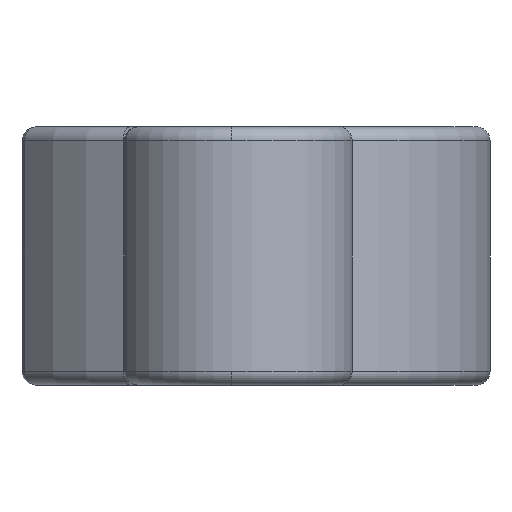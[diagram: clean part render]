
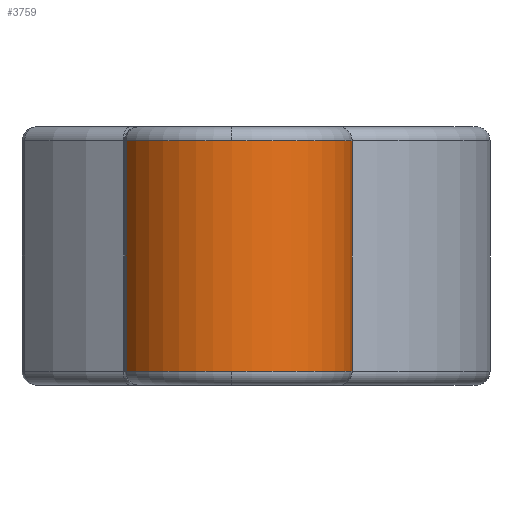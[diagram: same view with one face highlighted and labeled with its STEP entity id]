
A CAD part, left-side view. The second image highlights one B-rep face of the part: STEP entity #3759.
In plain terms, the highlighted cylindrical face has radius 4.445 mm (diameter 8.89 mm), a partial arc.
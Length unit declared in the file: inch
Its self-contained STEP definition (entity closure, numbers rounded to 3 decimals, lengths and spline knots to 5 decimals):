
#333 = LINE ( 'NONE', #5640, #4117 ) ;
#369 = DIRECTION ( 'NONE',  ( 0., 0., -1. ) ) ;
#492 = EDGE_CURVE ( 'NONE', #3408, #6118, #4507, .T. ) ;
#548 = VERTEX_POINT ( 'NONE', #1409 ) ;
#659 = AXIS2_PLACEMENT_3D ( 'NONE', #3007, #1044, #5032 ) ;
#814 = VERTEX_POINT ( 'NONE', #2743 ) ;
#1044 = DIRECTION ( 'NONE',  ( 0., 0., 1. ) ) ;
#1244 = EDGE_CURVE ( 'NONE', #3978, #5670, #5925, .T. ) ;
#1282 = AXIS2_PLACEMENT_3D ( 'NONE', #6431, #1997, #5362 ) ;
#1345 = CARTESIAN_POINT ( 'NONE',  ( -0.78479, 2.73389, 0.355 ) ) ;
#1403 = DIRECTION ( 'NONE',  ( 1., 0., 0. ) ) ;
#1409 = CARTESIAN_POINT ( 'NONE',  ( -0.63896, 2.63715, 0.02 ) ) ;
#1636 = CIRCLE ( 'NONE', #4986, 0.175 ) ;
#1829 = DIRECTION ( 'NONE',  ( -1., 0., 0. ) ) ;
#1997 = DIRECTION ( 'NONE',  ( 0., 0., 1. ) ) ;
#2110 = CARTESIAN_POINT ( 'NONE',  ( -0.95979, 2.73389, 0.355 ) ) ;
#2246 = EDGE_CURVE ( 'NONE', #548, #814, #3994, .T. ) ;
#2247 = DIRECTION ( 'NONE',  ( -1., 0., 0. ) ) ;
#2422 = ORIENTED_EDGE ( 'NONE', *, *, #2246, .T. ) ;
#2424 = DIRECTION ( 'NONE',  ( 0., 0., 1. ) ) ;
#2461 = EDGE_CURVE ( 'NONE', #5670, #3408, #333, .T. ) ;
#2627 = ORIENTED_EDGE ( 'NONE', *, *, #3736, .T. ) ;
#2743 = CARTESIAN_POINT ( 'NONE',  ( -0.63896, 2.63715, 0.355 ) ) ;
#2859 = ORIENTED_EDGE ( 'NONE', *, *, #492, .T. ) ;
#2942 = CARTESIAN_POINT ( 'NONE',  ( -0.63896, 2.63715, 0. ) ) ;
#3007 = CARTESIAN_POINT ( 'NONE',  ( -0.78479, 2.73389, 0.02 ) ) ;
#3153 = DIRECTION ( 'NONE',  ( 0., 0., -1. ) ) ;
#3200 = AXIS2_PLACEMENT_3D ( 'NONE', #5675, #4723, #2247 ) ;
#3408 = VERTEX_POINT ( 'NONE', #5954 ) ;
#3481 = EDGE_CURVE ( 'NONE', #6118, #548, #5778, .T. ) ;
#3736 = EDGE_CURVE ( 'NONE', #814, #3978, #1636, .T. ) ;
#3759 = ADVANCED_FACE ( 'NONE', ( #4277 ), #5784, .T. ) ;
#3825 = DIRECTION ( 'NONE',  ( 0., 0., 1. ) ) ;
#3978 = VERTEX_POINT ( 'NONE', #2110 ) ;
#3994 = LINE ( 'NONE', #2942, #5906 ) ;
#4117 = VECTOR ( 'NONE', #3153, 39.37008 ) ;
#4277 = FACE_OUTER_BOUND ( 'NONE', #5405, .T. ) ;
#4373 = CARTESIAN_POINT ( 'NONE',  ( -0.78479, 2.73389, 0. ) ) ;
#4486 = ORIENTED_EDGE ( 'NONE', *, *, #3481, .T. ) ;
#4507 = CIRCLE ( 'NONE', #1282, 0.175 ) ;
#4723 = DIRECTION ( 'NONE',  ( 0., 0., -1. ) ) ;
#4886 = AXIS2_PLACEMENT_3D ( 'NONE', #4373, #3825, #1403 ) ;
#4986 = AXIS2_PLACEMENT_3D ( 'NONE', #1345, #369, #1829 ) ;
#5032 = DIRECTION ( 'NONE',  ( -1., 0., 0. ) ) ;
#5362 = DIRECTION ( 'NONE',  ( -1., 0., 0. ) ) ;
#5380 = CARTESIAN_POINT ( 'NONE',  ( -0.95979, 2.73389, 0.02 ) ) ;
#5405 = EDGE_LOOP ( 'NONE', ( #6415, #2859, #4486, #2422, #2627, #5751 ) ) ;
#5496 = CARTESIAN_POINT ( 'NONE',  ( -0.86947, 2.88704, 0.355 ) ) ;
#5640 = CARTESIAN_POINT ( 'NONE',  ( -0.86947, 2.88704, 0. ) ) ;
#5670 = VERTEX_POINT ( 'NONE', #5496 ) ;
#5675 = CARTESIAN_POINT ( 'NONE',  ( -0.78479, 2.73389, 0.355 ) ) ;
#5751 = ORIENTED_EDGE ( 'NONE', *, *, #1244, .T. ) ;
#5778 = CIRCLE ( 'NONE', #659, 0.175 ) ;
#5784 = CYLINDRICAL_SURFACE ( 'NONE', #4886, 0.175 ) ;
#5906 = VECTOR ( 'NONE', #2424, 39.37008 ) ;
#5925 = CIRCLE ( 'NONE', #3200, 0.175 ) ;
#5954 = CARTESIAN_POINT ( 'NONE',  ( -0.86947, 2.88704, 0.02 ) ) ;
#6118 = VERTEX_POINT ( 'NONE', #5380 ) ;
#6415 = ORIENTED_EDGE ( 'NONE', *, *, #2461, .T. ) ;
#6431 = CARTESIAN_POINT ( 'NONE',  ( -0.78479, 2.73389, 0.02 ) ) ;
